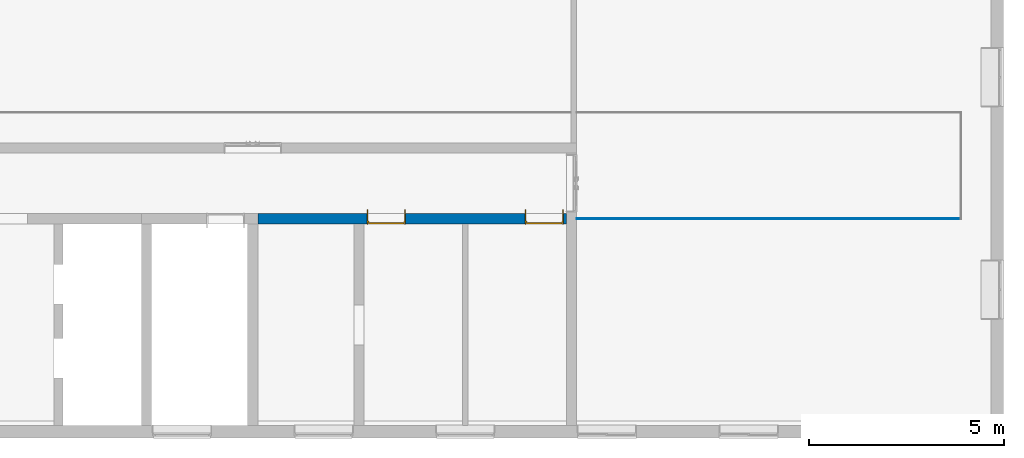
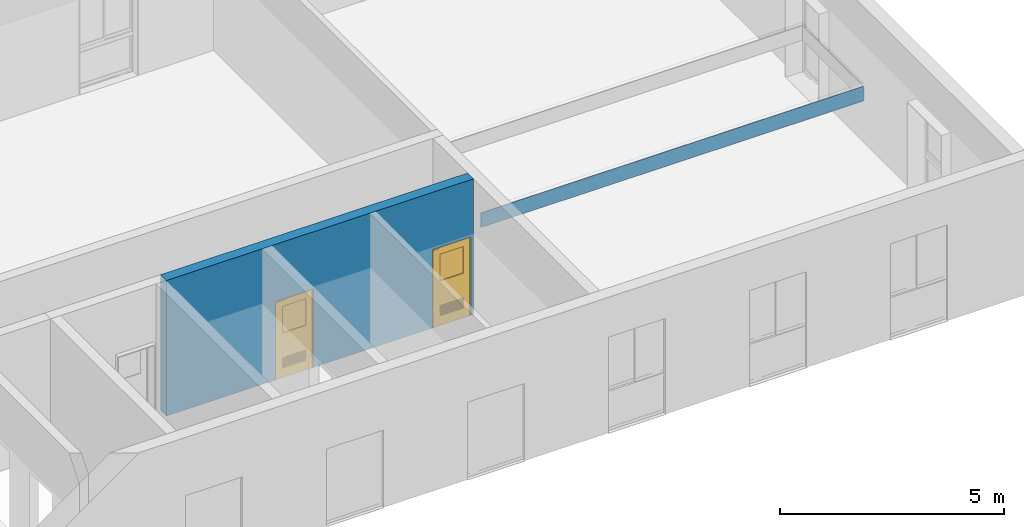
# One storey, part 13 of 15: 2 doors, 2 walls, 2 openings.
"""IFC4X3 building model written with IfcOpenShell, lengths in millimetres."""

from ifc_helpers import new_model, entity, si_unit, converted_unit, derived_unit, direction, frame, frame_2d, origin, place, context, subcontext, project, spatial, rectangle, extrude, faceted_brep, source, transform, mapped, material, layer, layer_set, constituent, constituent_set, type_object, type_shapes, element, fill, save


model = new_model("IFC4X3")

# Units and contexts
model_context = context("Model", 3, precision=0.01, world=origin(), true_north=direction((6.12303176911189e-17, 1.0)))
body_context = subcontext(model_context, "Body", "Model", "MODEL_VIEW")
ifc_project = project(units=[si_unit("LENGTHUNIT", "METRE", prefix="MILLI"), si_unit("AREAUNIT", "SQUARE_METRE"), si_unit("VOLUMEUNIT", "CUBIC_METRE"), converted_unit("PLANEANGLEUNIT", "DEGREE", entity("IfcPlaneAngleMeasure", 0.0174532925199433), si_unit("PLANEANGLEUNIT", "RADIAN"), dimensions=[0, 0, 0, 0, 0, 0, 0]), si_unit("MASSUNIT", "GRAM", prefix="KILO"), derived_unit("MASSDENSITYUNIT", [(si_unit("MASSUNIT", "GRAM", prefix="KILO"), 1), (si_unit("LENGTHUNIT", "METRE"), -3)]), derived_unit("IONCONCENTRATIONUNIT", [(si_unit("MASSUNIT", "GRAM", prefix="KILO"), 1), (si_unit("LENGTHUNIT", "METRE"), -3)]), derived_unit("MOMENTOFINERTIAUNIT", [(si_unit("LENGTHUNIT", "METRE"), 4)]), si_unit("TIMEUNIT", "SECOND"), si_unit("FREQUENCYUNIT", "HERTZ"), si_unit("THERMODYNAMICTEMPERATUREUNIT", "DEGREE_CELSIUS"), derived_unit("THERMALTRANSMITTANCEUNIT", [(si_unit("MASSUNIT", "GRAM", prefix="KILO"), 1), (si_unit("THERMODYNAMICTEMPERATUREUNIT", "KELVIN"), -1), (si_unit("TIMEUNIT", "SECOND"), -3)]), derived_unit("THERMALCONDUCTANCEUNIT", [(si_unit("MASSUNIT", "GRAM", prefix="KILO"), 1), (si_unit("THERMODYNAMICTEMPERATUREUNIT", "KELVIN"), -1), (si_unit("TIMEUNIT", "SECOND"), -3), (si_unit("LENGTHUNIT", "METRE"), 1)]), derived_unit("VOLUMETRICFLOWRATEUNIT", [(si_unit("LENGTHUNIT", "METRE", prefix="DECI"), 3), (si_unit("TIMEUNIT", "SECOND"), -1)]), derived_unit("MASSFLOWRATEUNIT", [(si_unit("MASSUNIT", "GRAM", prefix="KILO"), 1), (si_unit("TIMEUNIT", "SECOND"), -1)]), derived_unit("ROTATIONALFREQUENCYUNIT", [(si_unit("TIMEUNIT", "SECOND"), -1)]), si_unit("ELECTRICCURRENTUNIT", "AMPERE"), si_unit("ELECTRICVOLTAGEUNIT", "VOLT"), si_unit("POWERUNIT", "WATT"), si_unit("FORCEUNIT", "NEWTON", prefix="KILO"), si_unit("ILLUMINANCEUNIT", "LUX"), si_unit("LUMINOUSFLUXUNIT", "LUMEN"), si_unit("LUMINOUSINTENSITYUNIT", "CANDELA"), si_unit("ENERGYUNIT", "JOULE"), derived_unit("USERDEFINED", [(si_unit("MASSUNIT", "GRAM", prefix="KILO"), -1), (si_unit("LENGTHUNIT", "METRE"), -2), (si_unit("TIMEUNIT", "SECOND"), 3), (si_unit("LUMINOUSFLUXUNIT", "LUMEN"), 1)]), derived_unit("USERDEFINED", [(si_unit("MASSUNIT", "GRAM", prefix="KILO"), 1), (si_unit("TIMEUNIT", "SECOND"), -3), (si_unit("LENGTHUNIT", "METRE"), 3), (si_unit("ELECTRICCURRENTUNIT", "AMPERE"), -2)]), derived_unit("SOUNDPOWERUNIT", [(si_unit("MASSUNIT", "GRAM", prefix="KILO"), 1), (si_unit("TIMEUNIT", "SECOND"), -3), (si_unit("LENGTHUNIT", "METRE"), 2)]), derived_unit("SOUNDPRESSUREUNIT", [(si_unit("MASSUNIT", "GRAM", prefix="KILO"), 1), (si_unit("LENGTHUNIT", "METRE"), -1), (si_unit("TIMEUNIT", "SECOND"), -2)]), derived_unit("LINEARVELOCITYUNIT", [(si_unit("LENGTHUNIT", "METRE"), 1), (si_unit("TIMEUNIT", "SECOND"), -1)]), si_unit("PRESSUREUNIT", "PASCAL"), derived_unit("USERDEFINED", [(si_unit("MASSUNIT", "GRAM", prefix="KILO"), 1), (si_unit("LENGTHUNIT", "METRE"), -2), (si_unit("TIMEUNIT", "SECOND"), -2)]), derived_unit("LINEARFORCEUNIT", [(si_unit("MASSUNIT", "GRAM", prefix="KILO"), 1), (si_unit("TIMEUNIT", "SECOND"), -2)]), derived_unit("PLANARFORCEUNIT", [(si_unit("MASSUNIT", "GRAM", prefix="KILO"), 1), (si_unit("LENGTHUNIT", "METRE"), -1), (si_unit("TIMEUNIT", "SECOND"), -2)]), derived_unit("SPECIFICHEATCAPACITYUNIT", [(si_unit("THERMODYNAMICTEMPERATUREUNIT", "KELVIN"), -1), (si_unit("LENGTHUNIT", "METRE"), 2), (si_unit("TIMEUNIT", "SECOND"), -2)]), derived_unit("HEATFLUXDENSITYUNIT", [(si_unit("MASSUNIT", "GRAM", prefix="KILO"), 1), (si_unit("TIMEUNIT", "SECOND"), -3)]), derived_unit("HEATINGVALUEUNIT", [(si_unit("LENGTHUNIT", "METRE"), 2), (si_unit("TIMEUNIT", "SECOND"), -2)]), derived_unit("VAPORPERMEABILITYUNIT", [(si_unit("LENGTHUNIT", "METRE"), -1), (si_unit("TIMEUNIT", "SECOND"), 1)]), derived_unit("DYNAMICVISCOSITYUNIT", [(si_unit("MASSUNIT", "GRAM", prefix="KILO"), 1), (si_unit("TIMEUNIT", "SECOND"), -1), (si_unit("LENGTHUNIT", "METRE"), -1)]), derived_unit("THERMALEXPANSIONCOEFFICIENTUNIT", [(si_unit("THERMODYNAMICTEMPERATUREUNIT", "KELVIN"), -1)]), derived_unit("MODULUSOFELASTICITYUNIT", [(si_unit("MASSUNIT", "GRAM", prefix="KILO"), 1), (si_unit("LENGTHUNIT", "METRE"), -1), (si_unit("TIMEUNIT", "SECOND"), -2)]), derived_unit("ISOTHERMALMOISTURECAPACITYUNIT", [(si_unit("MASSUNIT", "GRAM", prefix="KILO"), -1), (si_unit("LENGTHUNIT", "METRE"), 3)]), derived_unit("MOISTUREDIFFUSIVITYUNIT", [(si_unit("TIMEUNIT", "SECOND"), -1), (si_unit("LENGTHUNIT", "METRE"), 2)]), derived_unit("AREADENSITYUNIT", [(si_unit("MASSUNIT", "GRAM", prefix="KILO"), 1), (si_unit("LENGTHUNIT", "METRE"), 2)]), derived_unit("MASSPERLENGTHUNIT", [(si_unit("MASSUNIT", "GRAM", prefix="KILO"), 1), (si_unit("LENGTHUNIT", "METRE"), -1)]), derived_unit("THERMALRESISTANCEUNIT", [(si_unit("MASSUNIT", "GRAM", prefix="KILO"), -1), (si_unit("TIMEUNIT", "SECOND"), 3), (si_unit("THERMODYNAMICTEMPERATUREUNIT", "KELVIN"), 1)]), derived_unit("ACCELERATIONUNIT", [(si_unit("LENGTHUNIT", "METRE"), 1), (si_unit("TIMEUNIT", "SECOND"), -2)]), derived_unit("ANGULARVELOCITYUNIT", [(si_unit("TIMEUNIT", "SECOND"), -1), (si_unit("PLANEANGLEUNIT", "RADIAN"), 1)]), derived_unit("LINEARSTIFFNESSUNIT", [(si_unit("MASSUNIT", "GRAM", prefix="KILO"), 1), (si_unit("TIMEUNIT", "SECOND"), -2)]), derived_unit("WARPINGCONSTANTUNIT", [(si_unit("LENGTHUNIT", "METRE"), 6)]), derived_unit("LINEARMOMENTUNIT", [(si_unit("MASSUNIT", "GRAM", prefix="KILO"), 1), (si_unit("LENGTHUNIT", "METRE"), 1), (si_unit("TIMEUNIT", "SECOND"), -2)]), derived_unit("TORQUEUNIT", [(si_unit("MASSUNIT", "GRAM", prefix="KILO"), 1), (si_unit("LENGTHUNIT", "METRE"), 2), (si_unit("TIMEUNIT", "SECOND"), -2)])], contexts=[model_context])

# Site, building, storey
site_placement = place(None, origin())
site = spatial("IfcSite", under=ifc_project, at=site_placement, Name="Default", CompositionType="ELEMENT")
building_placement = place(site_placement, origin())
building = spatial("IfcBuilding", under=site, at=building_placement, Name="事務所ビル", CompositionType="ELEMENT")
storey_placement = place(building_placement, frame((0.0, 0.0, 4300.0)))
storey = spatial("IfcBuildingStorey", under=building, at=storey_placement, Name="2FL", CompositionType="ELEMENT", Elevation=4300.0)

# Wall, openings, doors
ifc_material_1 = material(Name="せっこうボード", Category="一般")
ifc_layer_1 = layer(ifc_material_1, 15.0, Name="せっこうボード", Category="一般")
ifc_material_2 = material(Name="合板", Category="一般")
ifc_layer_2 = layer(ifc_material_2, 12.0, Name="合板", Category="一般")
ifc_material_3 = material(Name="天然木材", Category="一般")
ifc_layer_3 = layer(ifc_material_3, 210.0, Name="天然木材", Category="一般")
ifc_layer_4 = layer(ifc_material_2, 12.0, Name="合板", Category="一般")
ifc_layer_5 = layer(ifc_material_1, 15.0, Name="せっこうボード", Category="一般")
ifc_layer_set_1 = layer_set([ifc_layer_1, ifc_layer_2, ifc_layer_3, ifc_layer_4, ifc_layer_5], Name="標準壁:GB-R15_構造用合板12_木210_構造用合板12_GB-R15")
wall_type_1 = type_object("IfcWallType", Name="標準壁:GB-R15_構造用合板12_木210_構造用合板12_GB-R15", PredefinedType="STANDARD", material=ifc_layer_set_1)
wall_1_placement = place(storey_placement, frame((30162.0, 5460.0, 0.0)))
wall_1 = element("IfcWall", 1, at=wall_1_placement, inside=storey, type_object=wall_type_1, material=ifc_layer_set_1, Name="標準壁:GB-R15_構造用合板12_木210_構造用合板12_GB-R15", ObjectType="標準壁:GB-R15_構造用合板12_木210_構造用合板12_GB-R15", PredefinedType="NOTDEFINED", context=body_context, shape_type="SweptSolid", body=[
    extrude(rectangle(XDim=7925.99999999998, YDim=264.000000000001, at=frame_2d((3962.99999999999, -2.55795384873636e-13), x_axis=(-1.0, 0.0))), origin(), (0.0, 0.0, 1.0), 3700.0),
])
opening_1_placement = place(wall_1_placement, frame((3788.0, 132.0, 0.0)))
opening_1 = element("IfcOpeningElement", 2, at=opening_1_placement, cuts=wall_1, Name="鋼製_一般枠_片開き 1:鋼製_一般枠_片開き 1:1", PredefinedType="OPENING", context=body_context, shape_type="SweptSolid", body=[
    extrude(rectangle(XDim=2140.0, YDim=979.999999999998, at=frame_2d((1070.0, 489.999999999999), x_axis=(-1.0, 0.0))), frame((0.0, 0.0, 0.0), z_axis=(0.0, -1.0, 0.0), x_axis=(0.0, 0.0, 1.0)), (0.0, 0.0, 1.0), 264.0),
])
opening_2_placement = place(wall_1_placement, frame((7848.0, 132.0, 0.0)))
opening_2 = element("IfcOpeningElement", 3, at=opening_2_placement, cuts=wall_1, Name="鋼製_一般枠_片開き 1:鋼製_一般枠_片開き 1:1", PredefinedType="OPENING", context=body_context, shape_type="SweptSolid", body=[
    extrude(rectangle(XDim=2140.0, YDim=979.999999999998, at=frame_2d((1070.0, 489.999999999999), x_axis=(-1.0, 0.0))), frame((0.0, 0.0, 0.0), z_axis=(0.0, -1.0, 0.0), x_axis=(0.0, 0.0, 1.0)), (0.0, 0.0, 1.0), 264.0),
])
ifc_material_4 = material(Name="金属 - アルミニウム", Category="未設定")
ifc_constituent_1 = constituent(ifc_material_4, Name="金属 - アルミニウム", Category="未設定")
ifc_material_5 = material(Name="塗装 - 白", Category="未設定")
ifc_constituent_2 = constituent(ifc_material_5, Name="塗装 - 白", Category="未設定")
ifc_material_6 = material(Name="ガラス", Category="ガラス")
ifc_constituent_3 = constituent(ifc_material_6, Name="ガラス", Category="ガラス")
ifc_constituent_set_1 = constituent_set(constituents=[ifc_constituent_1, ifc_constituent_2, ifc_constituent_3])
ifc_constituent_4 = constituent(ifc_material_4, Name="金属 - アルミニウム", Category="未設定")
ifc_constituent_5 = constituent(ifc_material_5, Name="パネル", Category="未設定")
ifc_constituent_6 = constituent(ifc_material_6, Name="ガラス", Category="ガラス")
ifc_constituent_7 = constituent(ifc_material_4, Name="フレーム/マリオン", Category="未設定")
ifc_constituent_set_2 = constituent_set(constituents=[ifc_constituent_4, ifc_constituent_5, ifc_constituent_6, ifc_constituent_7])
door_type_1 = type_object("IfcDoorType", Name="鋼製_一般枠_片開き 1:鋼製_一般枠_片開き 1", OperationType="SINGLE_SWING_LEFT", ParameterTakesPrecedence=False, PredefinedType="DOOR", material=ifc_constituent_set_2)
shared_shape_1 = source(origin(), body_context, "Body", "Brep", [
    faceted_brep([(790.0, 269.0, 493.333333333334), (790.0, 269.0, 498.333333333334), (790.0, 239.0, 513.333333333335), (790.0, 229.0, 508.333333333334), (790.0, 229.0, 503.333333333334), (790.0, 239.0, 508.333333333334), (190.0, 269.0, 493.333333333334), (190.0, 239.0, 508.333333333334), (190.0, 229.0, 503.333333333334), (190.0, 229.0, 508.333333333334), (190.0, 239.0, 513.333333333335), (190.0, 269.0, 498.333333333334)], [[[0, 1, 2, 3, 4, 5]], [[6, 7, 8, 9, 10, 11]], [[5, 7, 6, 0]], [[4, 8, 7, 5]], [[3, 9, 8, 4]], [[2, 10, 9, 3]], [[1, 11, 10, 2]], [[0, 6, 11, 1]]]),
    faceted_brep([(790.0, 269.0, 466.666666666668), (790.0, 269.0, 471.666666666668), (790.0, 239.0, 486.666666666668), (790.0, 229.0, 481.666666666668), (790.0, 229.0, 476.666666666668), (790.0, 239.0, 481.666666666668), (190.0, 269.0, 466.666666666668), (190.0, 239.0, 481.666666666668), (190.0, 229.0, 476.666666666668), (190.0, 229.0, 481.666666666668), (190.0, 239.0, 486.666666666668), (190.0, 269.0, 471.666666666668)], [[[0, 1, 2, 3, 4, 5]], [[6, 7, 8, 9, 10, 11]], [[5, 7, 6, 0]], [[4, 8, 7, 5]], [[3, 9, 8, 4]], [[2, 10, 9, 3]], [[1, 11, 10, 2]], [[0, 6, 11, 1]]]),
    faceted_brep([(790.0, 269.0, 440.0), (790.0, 269.0, 445.0), (790.0, 239.0, 460.0), (790.0, 229.0, 455.0), (790.0, 229.0, 450.0), (790.0, 239.0, 455.0), (190.0, 269.0, 440.0), (190.0, 239.0, 455.0), (190.0, 229.0, 450.0), (190.0, 229.0, 455.0), (190.0, 239.0, 460.0), (190.0, 269.0, 445.0)], [[[0, 1, 2, 3, 4, 5]], [[6, 7, 8, 9, 10, 11]], [[5, 7, 6, 0]], [[4, 8, 7, 5]], [[3, 9, 8, 4]], [[2, 10, 9, 3]], [[1, 11, 10, 2]], [[0, 6, 11, 1]]]),
    faceted_brep([(790.0, 269.0, 413.333333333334), (790.0, 269.0, 418.333333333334), (790.0, 239.0, 433.333333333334), (790.0, 229.0, 428.333333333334), (790.0, 229.0, 423.333333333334), (790.0, 239.0, 428.333333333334), (190.0, 269.0, 413.333333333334), (190.0, 239.0, 428.333333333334), (190.0, 229.0, 423.333333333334), (190.0, 229.0, 428.333333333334), (190.0, 239.0, 433.333333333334), (190.0, 269.0, 418.333333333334)], [[[0, 1, 2, 3, 4, 5]], [[6, 7, 8, 9, 10, 11]], [[5, 7, 6, 0]], [[4, 8, 7, 5]], [[3, 9, 8, 4]], [[2, 10, 9, 3]], [[1, 11, 10, 2]], [[0, 6, 11, 1]]]),
    faceted_brep([(790.0, 269.0, 386.666666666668), (790.0, 269.0, 391.666666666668), (790.0, 239.0, 406.666666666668), (790.0, 229.0, 401.666666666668), (790.0, 229.0, 396.666666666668), (790.0, 239.0, 401.666666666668), (190.0, 269.0, 386.666666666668), (190.0, 239.0, 401.666666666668), (190.0, 229.0, 396.666666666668), (190.0, 229.0, 401.666666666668), (190.0, 239.0, 406.666666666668), (190.0, 269.0, 391.666666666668)], [[[0, 1, 2, 3, 4, 5]], [[6, 7, 8, 9, 10, 11]], [[5, 7, 6, 0]], [[4, 8, 7, 5]], [[3, 9, 8, 4]], [[2, 10, 9, 3]], [[1, 11, 10, 2]], [[0, 6, 11, 1]]]),
    faceted_brep([(790.0, 269.0, 360.0), (790.0, 269.0, 365.0), (790.0, 239.0, 380.0), (790.0, 229.0, 375.0), (790.0, 229.0, 370.0), (790.0, 239.0, 375.0), (190.0, 269.0, 360.0), (190.0, 239.0, 375.0), (190.0, 229.0, 370.0), (190.0, 229.0, 375.0), (190.0, 239.0, 380.0), (190.0, 269.0, 365.0)], [[[0, 1, 2, 3, 4, 5]], [[6, 7, 8, 9, 10, 11]], [[5, 7, 6, 0]], [[4, 8, 7, 5]], [[3, 9, 8, 4]], [[2, 10, 9, 3]], [[1, 11, 10, 2]], [[0, 6, 11, 1]]]),
    faceted_brep([(790.0, 269.0, 333.333333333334), (790.0, 269.0, 338.333333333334), (790.0, 239.0, 353.333333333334), (790.0, 229.0, 348.333333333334), (790.0, 229.0, 343.333333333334), (790.0, 239.0, 348.333333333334), (190.0, 269.0, 333.333333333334), (190.0, 239.0, 348.333333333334), (190.0, 229.0, 343.333333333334), (190.0, 229.0, 348.333333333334), (190.0, 239.0, 353.333333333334), (190.0, 269.0, 338.333333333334)], [[[0, 1, 2, 3, 4, 5]], [[6, 7, 8, 9, 10, 11]], [[5, 7, 6, 0]], [[4, 8, 7, 5]], [[3, 9, 8, 4]], [[2, 10, 9, 3]], [[1, 11, 10, 2]], [[0, 6, 11, 1]]]),
    faceted_brep([(790.0, 269.0, 306.666666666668), (790.0, 269.0, 311.666666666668), (790.0, 239.0, 326.666666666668), (790.0, 229.0, 321.666666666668), (790.0, 229.0, 316.666666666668), (790.0, 239.0, 321.666666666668), (190.0, 269.0, 306.666666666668), (190.0, 239.0, 321.666666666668), (190.0, 229.0, 316.666666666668), (190.0, 229.0, 321.666666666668), (190.0, 239.0, 326.666666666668), (190.0, 269.0, 311.666666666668)], [[[0, 1, 2, 3, 4, 5]], [[6, 7, 8, 9, 10, 11]], [[5, 7, 6, 0]], [[4, 8, 7, 5]], [[3, 9, 8, 4]], [[2, 10, 9, 3]], [[1, 11, 10, 2]], [[0, 6, 11, 1]]]),
    faceted_brep([(790.0, 269.0, 520.0), (790.0, 269.0, 525.0), (790.0, 239.0, 540.0), (790.0, 229.0, 535.0), (790.0, 229.0, 530.0), (790.0, 239.0, 535.0), (190.0, 269.0, 520.0), (190.0, 239.0, 535.0), (190.0, 229.0, 530.0), (190.0, 229.0, 535.0), (190.0, 239.0, 540.0), (190.0, 269.0, 525.0)], [[[0, 1, 2, 3, 4, 5]], [[6, 7, 8, 9, 10, 11]], [[5, 7, 6, 0]], [[4, 8, 7, 5]], [[3, 9, 8, 4]], [[2, 10, 9, 3]], [[1, 11, 10, 2]], [[0, 6, 11, 1]]]),
    faceted_brep([(790.0, 269.0, 280.0), (790.0, 269.0, 285.0), (790.0, 239.0, 300.0), (790.0, 229.0, 295.0), (790.0, 229.0, 290.0), (790.0, 239.0, 295.0), (190.0, 269.0, 280.0), (190.0, 239.0, 295.0), (190.0, 229.0, 290.0), (190.0, 229.0, 295.0), (190.0, 239.0, 300.0), (190.0, 269.0, 285.0)], [[[0, 1, 2, 3, 4, 5]], [[6, 7, 8, 9, 10, 11]], [[5, 7, 6, 0]], [[4, 8, 7, 5]], [[3, 9, 8, 4]], [[2, 10, 9, 3]], [[1, 11, 10, 2]], [[0, 6, 11, 1]]]),
    faceted_brep([(800.0, 269.0, 260.0), (180.0, 269.0, 260.0), (180.0, 269.0, 560.0), (800.0, 269.0, 560.0), (790.0, 269.0, 270.0), (790.0, 269.0, 550.0), (190.0, 269.0, 550.0), (190.0, 269.0, 270.0), (800.0, 229.0, 260.0), (800.0, 229.0, 560.0), (180.0, 229.0, 560.0), (180.0, 229.0, 260.0), (790.0, 229.0, 270.0), (190.0, 229.0, 270.0), (190.0, 229.0, 550.0), (790.0, 229.0, 550.0)], [[[0, 1, 2, 3], [4, 5, 6, 7]], [[8, 9, 10, 11], [12, 13, 14, 15]], [[3, 9, 8, 0]], [[2, 10, 9, 3]], [[1, 11, 10, 2]], [[0, 8, 11, 1]], [[7, 13, 12, 4]], [[6, 14, 13, 7]], [[5, 15, 14, 6]], [[4, 12, 15, 5]]]),
    faceted_brep([(800.0, 229.0, 1210.0), (800.0, 229.0, 1960.0), (180.0, 229.0, 1960.0), (180.0, 229.0, 1210.0), (790.0, 229.0, 1220.0), (190.0, 229.0, 1220.0), (190.0, 229.0, 1950.0), (790.0, 229.0, 1950.0), (800.0, 269.0, 1210.0), (180.0, 269.0, 1210.0), (180.0, 269.0, 1960.0), (800.0, 269.0, 1960.0), (790.0, 269.0, 1220.0), (790.0, 269.0, 1950.0), (190.0, 269.0, 1950.0), (190.0, 269.0, 1220.0)], [[[0, 1, 2, 3], [4, 5, 6, 7]], [[8, 9, 10, 11], [12, 13, 14, 15]], [[1, 0, 8, 11]], [[2, 1, 11, 10]], [[3, 2, 10, 9]], [[0, 3, 9, 8]], [[5, 4, 12, 15]], [[6, 5, 15, 14]], [[7, 6, 14, 13]], [[4, 7, 13, 12]]]),
    faceted_brep([(800.0, 244.0, 1210.0), (800.0, 244.0, 1960.0), (180.0, 244.0, 1960.0), (180.0, 244.0, 1210.0), (800.0, 249.0, 1210.0), (180.0, 249.0, 1210.0), (180.0, 249.0, 1960.0), (800.0, 249.0, 1960.0)], [[[0, 1, 2, 3]], [[4, 5, 6, 7]], [[1, 0, 4, 7]], [[2, 1, 7, 6]], [[3, 2, 6, 5]], [[0, 3, 5, 4]]]),
    faceted_brep([(950.0, 229.0, 10.0), (950.0, 229.0, 2110.0), (30.0, 229.0, 2110.0), (30.0, 229.0, 10.0), (800.0, 229.0, 260.0), (180.0, 229.0, 260.0), (180.0, 229.0, 560.0), (800.0, 229.0, 560.0), (800.0, 229.0, 1210.0), (180.0, 229.0, 1210.0), (180.0, 229.0, 1960.0), (800.0, 229.0, 1960.0), (950.0, 269.0, 10.0), (30.0, 269.0, 10.0), (30.0, 269.0, 2110.0), (950.0, 269.0, 2110.0), (800.0, 269.0, 260.0), (800.0, 269.0, 560.0), (180.0, 269.0, 560.0), (180.0, 269.0, 260.0), (800.0, 269.0, 1210.0), (800.0, 269.0, 1960.0), (180.0, 269.0, 1960.0), (180.0, 269.0, 1210.0)], [[[0, 1, 2, 3], [4, 5, 6, 7], [8, 9, 10, 11]], [[12, 13, 14, 15], [16, 17, 18, 19], [20, 21, 22, 23]], [[1, 0, 12, 15]], [[2, 1, 15, 14]], [[3, 2, 14, 13]], [[0, 3, 13, 12]], [[5, 4, 16, 19]], [[6, 5, 19, 18]], [[7, 6, 18, 17]], [[4, 7, 17, 16]], [[9, 8, 20, 23]], [[10, 9, 23, 22]], [[11, 10, 22, 21]], [[8, 11, 21, 20]]]),
    faceted_brep([(955.0, 274.0, 0.0), (980.0, 274.0, 0.0), (980.0, -110.0, 0.0), (955.0, -110.0, 0.0), (955.0, 194.0, 0.0), (940.0, 194.0, 0.0), (940.0, 224.0, 0.0), (955.0, 224.0, 0.0), (955.0, 274.0, 2115.0), (25.0, 274.0, 2115.0), (25.0, 274.0, 0.0), (0.0, 274.0, 0.0), (0.0, 274.0, 2140.0), (980.0, 274.0, 2140.0), (980.0, -110.0, 2140.0), (0.0, -110.0, 2140.0), (0.0, -110.0, 0.0), (25.0, -110.0, 0.0), (25.0, -110.0, 2115.0), (955.0, -110.0, 2115.0), (955.0, 194.0, 2115.0), (25.0, 194.0, 2115.0), (25.0, 194.0, 0.0), (40.0, 194.0, 0.0), (40.0, 194.0, 2100.0), (940.0, 194.0, 2100.0), (940.0, 224.0, 2100.0), (40.0, 224.0, 2100.0), (40.0, 224.0, 0.0), (25.0, 224.0, 0.0), (25.0, 224.0, 2115.0), (955.0, 224.0, 2115.0)], [[[0, 1, 2, 3, 4, 5, 6, 7]], [[1, 0, 8, 9, 10, 11, 12, 13]], [[2, 1, 13, 14]], [[3, 2, 14, 15, 16, 17, 18, 19]], [[4, 3, 19, 20]], [[5, 4, 20, 21, 22, 23, 24, 25]], [[6, 5, 25, 26]], [[7, 6, 26, 27, 28, 29, 30, 31]], [[0, 7, 31, 8]], [[14, 13, 12, 15]], [[20, 19, 18, 21]], [[26, 25, 24, 27]], [[8, 31, 30, 9]], [[10, 29, 28, 23, 22, 17, 16, 11]], [[15, 12, 11, 16]], [[21, 18, 17, 22]], [[27, 24, 23, 28]], [[9, 30, 29, 10]]]),
])
type_shapes(door_type_1, [shared_shape_1])
door_1_placement = place(opening_2_placement, frame((0.0, 0.0, 0.0), z_axis=(0.0, 0.0, 1.0), x_axis=(-1.0, 0.0, 0.0)))
door_1 = element("IfcDoor", 4, at=door_1_placement, inside=storey, type_object=door_type_1, material=ifc_constituent_set_1, Name="鋼製_一般枠_片開き 1:鋼製_一般枠_片開き 1", ObjectType="鋼製_一般枠_片開き 1:鋼製_一般枠_片開き 1", OperationType="SINGLE_SWING_LEFT", OverallHeight=2140.0, OverallWidth=979.999999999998, PredefinedType="DOOR", context=body_context, shape_type="MappedRepresentation", body=[
    mapped(shared_shape_1, transform((0.0, 0.0, 0.0), scale=1.0)),
])
fill(opening_2, door_1)
ifc_constituent_8 = constituent(ifc_material_4, Name="金属 - アルミニウム", Category="未設定")
ifc_constituent_9 = constituent(ifc_material_5, Name="塗装 - 白", Category="未設定")
ifc_constituent_10 = constituent(ifc_material_6, Name="ガラス", Category="ガラス")
ifc_constituent_set_3 = constituent_set(constituents=[ifc_constituent_8, ifc_constituent_9, ifc_constituent_10])
ifc_constituent_11 = constituent(ifc_material_4, Name="金属 - アルミニウム", Category="未設定")
ifc_constituent_12 = constituent(ifc_material_5, Name="パネル", Category="未設定")
ifc_constituent_13 = constituent(ifc_material_6, Name="ガラス", Category="ガラス")
ifc_constituent_14 = constituent(ifc_material_4, Name="フレーム/マリオン", Category="未設定")
ifc_constituent_set_4 = constituent_set(constituents=[ifc_constituent_11, ifc_constituent_12, ifc_constituent_13, ifc_constituent_14])
door_type_2 = type_object("IfcDoorType", Name="鋼製_一般枠_片開き 1:鋼製_一般枠_片開き 1", OperationType="SINGLE_SWING_RIGHT", ParameterTakesPrecedence=False, PredefinedType="DOOR", material=ifc_constituent_set_4)
shared_shape_2 = source(origin(), body_context, "Body", "Brep", [
    faceted_brep([(190.0, 269.0, 493.333333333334), (190.0, 239.0, 508.333333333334), (190.0, 229.0, 503.333333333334), (190.0, 229.0, 508.333333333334), (190.0, 239.0, 513.333333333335), (190.0, 269.0, 498.333333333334), (790.0, 269.0, 493.333333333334), (790.0, 269.0, 498.333333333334), (790.0, 239.0, 513.333333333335), (790.0, 229.0, 508.333333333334), (790.0, 229.0, 503.333333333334), (790.0, 239.0, 508.333333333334)], [[[0, 1, 2, 3, 4, 5]], [[6, 7, 8, 9, 10, 11]], [[1, 0, 6, 11]], [[2, 1, 11, 10]], [[3, 2, 10, 9]], [[4, 3, 9, 8]], [[5, 4, 8, 7]], [[0, 5, 7, 6]]]),
    faceted_brep([(190.0, 269.0, 466.666666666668), (190.0, 239.0, 481.666666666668), (190.0, 229.0, 476.666666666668), (190.0, 229.0, 481.666666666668), (190.0, 239.0, 486.666666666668), (190.0, 269.0, 471.666666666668), (790.0, 269.0, 466.666666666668), (790.0, 269.0, 471.666666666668), (790.0, 239.0, 486.666666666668), (790.0, 229.0, 481.666666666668), (790.0, 229.0, 476.666666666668), (790.0, 239.0, 481.666666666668)], [[[0, 1, 2, 3, 4, 5]], [[6, 7, 8, 9, 10, 11]], [[1, 0, 6, 11]], [[2, 1, 11, 10]], [[3, 2, 10, 9]], [[4, 3, 9, 8]], [[5, 4, 8, 7]], [[0, 5, 7, 6]]]),
    faceted_brep([(190.0, 269.0, 440.0), (190.0, 239.0, 455.0), (190.0, 229.0, 450.0), (190.0, 229.0, 455.0), (190.0, 239.0, 460.0), (190.0, 269.0, 445.0), (790.0, 269.0, 440.0), (790.0, 269.0, 445.0), (790.0, 239.0, 460.0), (790.0, 229.0, 455.0), (790.0, 229.0, 450.0), (790.0, 239.0, 455.0)], [[[0, 1, 2, 3, 4, 5]], [[6, 7, 8, 9, 10, 11]], [[1, 0, 6, 11]], [[2, 1, 11, 10]], [[3, 2, 10, 9]], [[4, 3, 9, 8]], [[5, 4, 8, 7]], [[0, 5, 7, 6]]]),
    faceted_brep([(190.0, 269.0, 413.333333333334), (190.0, 239.0, 428.333333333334), (190.0, 229.0, 423.333333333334), (190.0, 229.0, 428.333333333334), (190.0, 239.0, 433.333333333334), (190.0, 269.0, 418.333333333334), (790.0, 269.0, 413.333333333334), (790.0, 269.0, 418.333333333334), (790.0, 239.0, 433.333333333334), (790.0, 229.0, 428.333333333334), (790.0, 229.0, 423.333333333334), (790.0, 239.0, 428.333333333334)], [[[0, 1, 2, 3, 4, 5]], [[6, 7, 8, 9, 10, 11]], [[1, 0, 6, 11]], [[2, 1, 11, 10]], [[3, 2, 10, 9]], [[4, 3, 9, 8]], [[5, 4, 8, 7]], [[0, 5, 7, 6]]]),
    faceted_brep([(190.0, 269.0, 386.666666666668), (190.0, 239.0, 401.666666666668), (190.0, 229.0, 396.666666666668), (190.0, 229.0, 401.666666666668), (190.0, 239.0, 406.666666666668), (190.0, 269.0, 391.666666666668), (790.0, 269.0, 386.666666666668), (790.0, 269.0, 391.666666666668), (790.0, 239.0, 406.666666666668), (790.0, 229.0, 401.666666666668), (790.0, 229.0, 396.666666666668), (790.0, 239.0, 401.666666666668)], [[[0, 1, 2, 3, 4, 5]], [[6, 7, 8, 9, 10, 11]], [[1, 0, 6, 11]], [[2, 1, 11, 10]], [[3, 2, 10, 9]], [[4, 3, 9, 8]], [[5, 4, 8, 7]], [[0, 5, 7, 6]]]),
    faceted_brep([(190.0, 269.0, 360.0), (190.0, 239.0, 375.0), (190.0, 229.0, 370.0), (190.0, 229.0, 375.0), (190.0, 239.0, 380.0), (190.0, 269.0, 365.0), (790.0, 269.0, 360.0), (790.0, 269.0, 365.0), (790.0, 239.0, 380.0), (790.0, 229.0, 375.0), (790.0, 229.0, 370.0), (790.0, 239.0, 375.0)], [[[0, 1, 2, 3, 4, 5]], [[6, 7, 8, 9, 10, 11]], [[1, 0, 6, 11]], [[2, 1, 11, 10]], [[3, 2, 10, 9]], [[4, 3, 9, 8]], [[5, 4, 8, 7]], [[0, 5, 7, 6]]]),
    faceted_brep([(190.0, 269.0, 333.333333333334), (190.0, 239.0, 348.333333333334), (190.0, 229.0, 343.333333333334), (190.0, 229.0, 348.333333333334), (190.0, 239.0, 353.333333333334), (190.0, 269.0, 338.333333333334), (790.0, 269.0, 333.333333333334), (790.0, 269.0, 338.333333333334), (790.0, 239.0, 353.333333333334), (790.0, 229.0, 348.333333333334), (790.0, 229.0, 343.333333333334), (790.0, 239.0, 348.333333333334)], [[[0, 1, 2, 3, 4, 5]], [[6, 7, 8, 9, 10, 11]], [[1, 0, 6, 11]], [[2, 1, 11, 10]], [[3, 2, 10, 9]], [[4, 3, 9, 8]], [[5, 4, 8, 7]], [[0, 5, 7, 6]]]),
    faceted_brep([(190.0, 269.0, 306.666666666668), (190.0, 239.0, 321.666666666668), (190.0, 229.0, 316.666666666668), (190.0, 229.0, 321.666666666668), (190.0, 239.0, 326.666666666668), (190.0, 269.0, 311.666666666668), (790.0, 269.0, 306.666666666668), (790.0, 269.0, 311.666666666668), (790.0, 239.0, 326.666666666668), (790.0, 229.0, 321.666666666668), (790.0, 229.0, 316.666666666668), (790.0, 239.0, 321.666666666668)], [[[0, 1, 2, 3, 4, 5]], [[6, 7, 8, 9, 10, 11]], [[1, 0, 6, 11]], [[2, 1, 11, 10]], [[3, 2, 10, 9]], [[4, 3, 9, 8]], [[5, 4, 8, 7]], [[0, 5, 7, 6]]]),
    faceted_brep([(190.0, 269.0, 520.0), (190.0, 239.0, 535.0), (190.0, 229.0, 530.0), (190.0, 229.0, 535.0), (190.0, 239.0, 540.0), (190.0, 269.0, 525.0), (790.0, 269.0, 520.0), (790.0, 269.0, 525.0), (790.0, 239.0, 540.0), (790.0, 229.0, 535.0), (790.0, 229.0, 530.0), (790.0, 239.0, 535.0)], [[[0, 1, 2, 3, 4, 5]], [[6, 7, 8, 9, 10, 11]], [[1, 0, 6, 11]], [[2, 1, 11, 10]], [[3, 2, 10, 9]], [[4, 3, 9, 8]], [[5, 4, 8, 7]], [[0, 5, 7, 6]]]),
    faceted_brep([(190.0, 269.0, 280.0), (190.0, 239.0, 295.0), (190.0, 229.0, 290.0), (190.0, 229.0, 295.0), (190.0, 239.0, 300.0), (190.0, 269.0, 285.0), (790.0, 269.0, 280.0), (790.0, 269.0, 285.0), (790.0, 239.0, 300.0), (790.0, 229.0, 295.0), (790.0, 229.0, 290.0), (790.0, 239.0, 295.0)], [[[0, 1, 2, 3, 4, 5]], [[6, 7, 8, 9, 10, 11]], [[1, 0, 6, 11]], [[2, 1, 11, 10]], [[3, 2, 10, 9]], [[4, 3, 9, 8]], [[5, 4, 8, 7]], [[0, 5, 7, 6]]]),
    faceted_brep([(180.0, 269.0, 260.0), (180.0, 269.0, 560.0), (800.0, 269.0, 560.0), (800.0, 269.0, 260.0), (190.0, 269.0, 270.0), (790.0, 269.0, 270.0), (790.0, 269.0, 550.0), (190.0, 269.0, 550.0), (180.0, 229.0, 260.0), (800.0, 229.0, 260.0), (800.0, 229.0, 560.0), (180.0, 229.0, 560.0), (190.0, 229.0, 270.0), (190.0, 229.0, 550.0), (790.0, 229.0, 550.0), (790.0, 229.0, 270.0)], [[[0, 1, 2, 3], [4, 5, 6, 7]], [[8, 9, 10, 11], [12, 13, 14, 15]], [[1, 0, 8, 11]], [[2, 1, 11, 10]], [[3, 2, 10, 9]], [[0, 3, 9, 8]], [[5, 4, 12, 15]], [[6, 5, 15, 14]], [[7, 6, 14, 13]], [[4, 7, 13, 12]]]),
    faceted_brep([(180.0, 229.0, 1210.0), (800.0, 229.0, 1210.0), (800.0, 229.0, 1960.0), (180.0, 229.0, 1960.0), (190.0, 229.0, 1220.0), (190.0, 229.0, 1950.0), (790.0, 229.0, 1950.0), (790.0, 229.0, 1220.0), (180.0, 269.0, 1210.0), (180.0, 269.0, 1960.0), (800.0, 269.0, 1960.0), (800.0, 269.0, 1210.0), (190.0, 269.0, 1220.0), (790.0, 269.0, 1220.0), (790.0, 269.0, 1950.0), (190.0, 269.0, 1950.0)], [[[0, 1, 2, 3], [4, 5, 6, 7]], [[8, 9, 10, 11], [12, 13, 14, 15]], [[3, 9, 8, 0]], [[2, 10, 9, 3]], [[1, 11, 10, 2]], [[0, 8, 11, 1]], [[7, 13, 12, 4]], [[6, 14, 13, 7]], [[5, 15, 14, 6]], [[4, 12, 15, 5]]]),
    faceted_brep([(180.0, 244.0, 1210.0), (800.0, 244.0, 1210.0), (800.0, 244.0, 1960.0), (180.0, 244.0, 1960.0), (180.0, 249.0, 1210.0), (180.0, 249.0, 1960.0), (800.0, 249.0, 1960.0), (800.0, 249.0, 1210.0)], [[[0, 1, 2, 3]], [[4, 5, 6, 7]], [[3, 5, 4, 0]], [[2, 6, 5, 3]], [[1, 7, 6, 2]], [[0, 4, 7, 1]]]),
    faceted_brep([(30.0, 229.0, 10.0), (950.0, 229.0, 10.0), (950.0, 229.0, 2110.0), (30.0, 229.0, 2110.0), (180.0, 229.0, 260.0), (180.0, 229.0, 560.0), (800.0, 229.0, 560.0), (800.0, 229.0, 260.0), (180.0, 229.0, 1210.0), (180.0, 229.0, 1960.0), (800.0, 229.0, 1960.0), (800.0, 229.0, 1210.0), (30.0, 269.0, 10.0), (30.0, 269.0, 2110.0), (950.0, 269.0, 2110.0), (950.0, 269.0, 10.0), (180.0, 269.0, 260.0), (800.0, 269.0, 260.0), (800.0, 269.0, 560.0), (180.0, 269.0, 560.0), (180.0, 269.0, 1210.0), (800.0, 269.0, 1210.0), (800.0, 269.0, 1960.0), (180.0, 269.0, 1960.0)], [[[0, 1, 2, 3], [4, 5, 6, 7], [8, 9, 10, 11]], [[12, 13, 14, 15], [16, 17, 18, 19], [20, 21, 22, 23]], [[3, 13, 12, 0]], [[2, 14, 13, 3]], [[1, 15, 14, 2]], [[0, 12, 15, 1]], [[7, 17, 16, 4]], [[6, 18, 17, 7]], [[5, 19, 18, 6]], [[4, 16, 19, 5]], [[11, 21, 20, 8]], [[10, 22, 21, 11]], [[9, 23, 22, 10]], [[8, 20, 23, 9]]]),
    faceted_brep([(25.0, 274.0, 0.0), (25.0, 224.0, 0.0), (40.0, 224.0, 0.0), (40.0, 194.0, 0.0), (25.0, 194.0, 0.0), (25.0, -110.0, 0.0), (0.0, -110.0, 0.0), (0.0, 274.0, 0.0), (0.0, 274.0, 2140.0), (980.0, 274.0, 2140.0), (980.0, 274.0, 0.0), (955.0, 274.0, 0.0), (955.0, 274.0, 2115.0), (25.0, 274.0, 2115.0), (0.0, -110.0, 2140.0), (25.0, -110.0, 2115.0), (955.0, -110.0, 2115.0), (955.0, -110.0, 0.0), (980.0, -110.0, 0.0), (980.0, -110.0, 2140.0), (25.0, 194.0, 2115.0), (40.0, 194.0, 2100.0), (940.0, 194.0, 2100.0), (940.0, 194.0, 0.0), (955.0, 194.0, 0.0), (955.0, 194.0, 2115.0), (40.0, 224.0, 2100.0), (25.0, 224.0, 2115.0), (955.0, 224.0, 2115.0), (955.0, 224.0, 0.0), (940.0, 224.0, 0.0), (940.0, 224.0, 2100.0)], [[[0, 1, 2, 3, 4, 5, 6, 7]], [[7, 8, 9, 10, 11, 12, 13, 0]], [[6, 14, 8, 7]], [[5, 15, 16, 17, 18, 19, 14, 6]], [[4, 20, 15, 5]], [[3, 21, 22, 23, 24, 25, 20, 4]], [[2, 26, 21, 3]], [[1, 27, 28, 29, 30, 31, 26, 2]], [[0, 13, 27, 1]], [[14, 19, 9, 8]], [[20, 25, 16, 15]], [[26, 31, 22, 21]], [[13, 12, 28, 27]], [[11, 10, 18, 17, 24, 23, 30, 29]], [[19, 18, 10, 9]], [[25, 24, 17, 16]], [[31, 30, 23, 22]], [[12, 11, 29, 28]]]),
])
type_shapes(door_type_2, [shared_shape_2])
door_2_placement = place(opening_1_placement, frame((0.0, 0.0, 0.0), z_axis=(0.0, 0.0, 1.0), x_axis=(-1.0, 0.0, 0.0)))
door_2 = element("IfcDoor", 5, at=door_2_placement, inside=storey, type_object=door_type_2, material=ifc_constituent_set_3, Name="鋼製_一般枠_片開き 1:鋼製_一般枠_片開き 1", ObjectType="鋼製_一般枠_片開き 1:鋼製_一般枠_片開き 1", OperationType="SINGLE_SWING_RIGHT", OverallHeight=2140.0, OverallWidth=979.999999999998, PredefinedType="DOOR", context=body_context, shape_type="MappedRepresentation", body=[
    mapped(shared_shape_2, transform((0.0, 0.0, 0.0), scale=1.0)),
])
fill(opening_1, door_2)

# Wall
ifc_material_7 = material(Name="<Unnamed>")
ifc_layer_6 = layer(ifc_material_7, 15.0, Name="Layer")
ifc_layer_set_2 = layer_set([ifc_layer_6], Name="標準壁:GB-R15")
wall_type_2 = type_object("IfcWallType", Name="標準壁:GB-R15", PredefinedType="STANDARD", material=ifc_layer_set_2)
wall_2_placement = place(storey_placement, frame((48222.5, 5460.0, 2200.0), z_axis=(0.0, 0.0, 1.0), x_axis=(-1.0, 0.0, 0.0)))
element("IfcWall", 6, at=wall_2_placement, inside=storey, type_object=wall_type_2, material=ifc_layer_set_2, Name="標準壁:GB-R15", ObjectType="標準壁:GB-R15", PredefinedType="NOTDEFINED", context=body_context, shape_type="SweptSolid", body=[
    extrude(rectangle(XDim=9870.49999999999, YDim=15.0000000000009, at=frame_2d((4935.24999999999, -1.24344978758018e-14), x_axis=(-1.0, 0.0))), origin(), (0.0, 0.0, 1.0), 400.0),
])

save(model, "model.ifc")
